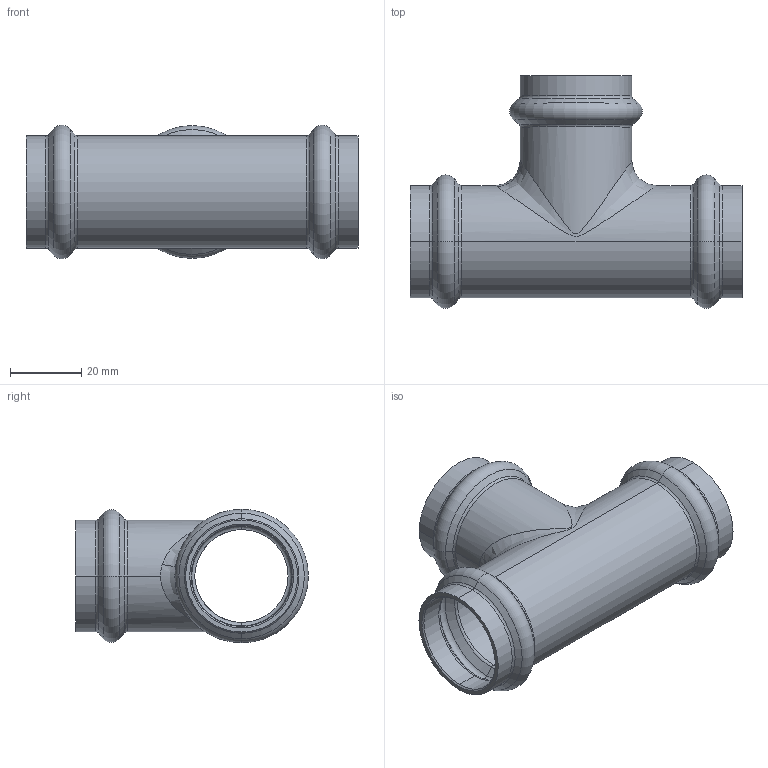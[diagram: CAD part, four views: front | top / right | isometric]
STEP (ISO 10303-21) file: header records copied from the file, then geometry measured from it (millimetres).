
FILE_DESCRIPTION (( 'STEP AP203' ), '1' );
FILE_NAME ('SP5130 Ø28.STEP', '2017-04-24T12:16:33', ( '' ), ( '' ), 'SwSTEP 2.0', 'SolidWorks 2016', '' );
FILE_SCHEMA (( 'CONFIG_CONTROL_DESIGN' ));
Length unit declared in the file: millimetre
Products named in the file (1): SP5130 ﾘ28
Bounding box: 93 x 65.2 x 37.4 mm (x, y, z)
Volume: 23184.6 mm3; surface area: 24782 mm2
Topology: 1 solids, 1 shells, 111 faces, 232 edges, 126 vertices
Faces by surface type: torus 40, cylinder 31, cone 30, plane 6, bspline 4
Entity records: 4515 total; most frequent: CARTESIAN_POINT 2014, DIRECTION 588, ORIENTED_EDGE 464, AXIS2_PLACEMENT_3D 264, EDGE_CURVE 232, CIRCLE 156, VERTEX_POINT 126, EDGE_LOOP 118
